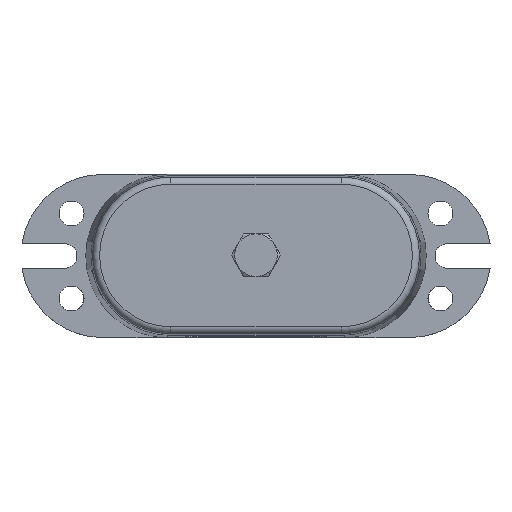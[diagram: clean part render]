
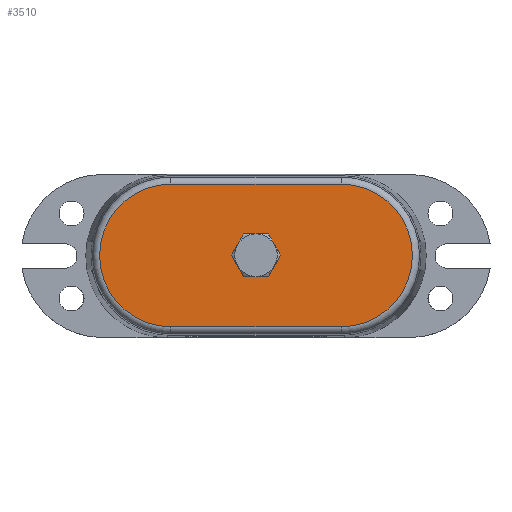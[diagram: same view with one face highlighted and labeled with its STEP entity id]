
A CAD part, top view. The second image highlights one B-rep face of the part: STEP entity #3510.
In plain terms, the highlighted planar face has unit normal (0, 0, 1).
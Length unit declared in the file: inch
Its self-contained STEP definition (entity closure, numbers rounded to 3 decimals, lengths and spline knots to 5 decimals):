
#93=LINE('',#6836,#312);
#94=LINE('',#6839,#313);
#312=VECTOR('',#4172,3.);
#313=VECTOR('',#4175,3.);
#706=FACE_BOUND('',#1004,.T.);
#784=FACE_OUTER_BOUND('',#1003,.T.);
#1003=EDGE_LOOP('',(#2310,#2311,#2312,#2313));
#1004=EDGE_LOOP('',(#2314,#2315,#2316,#2317,#2318,#2319));
#1254=CIRCLE('',#3735,0.375);
#1255=CIRCLE('',#3737,0.375);
#1256=CIRCLE('',#3739,0.375);
#1257=CIRCLE('',#3741,0.375);
#1258=CIRCLE('',#3743,0.375);
#1259=CIRCLE('',#3745,0.375);
#1260=CIRCLE('',#3753,1.25757);
#1261=CIRCLE('',#3754,1.25757);
#1408=VERTEX_POINT('',#6761);
#1409=VERTEX_POINT('',#6765);
#1410=VERTEX_POINT('',#6771);
#1413=VERTEX_POINT('',#6782);
#1415=VERTEX_POINT('',#6792);
#1416=VERTEX_POINT('',#6801);
#1419=VERTEX_POINT('',#6832);
#1420=VERTEX_POINT('',#6833);
#1421=VERTEX_POINT('',#6835);
#1422=VERTEX_POINT('',#6837);
#1747=EDGE_CURVE('',#1408,#1409,#1254,.T.);
#1749=EDGE_CURVE('',#1409,#1410,#1255,.T.);
#1753=EDGE_CURVE('',#1413,#1408,#1256,.T.);
#1756=EDGE_CURVE('',#1415,#1413,#1257,.T.);
#1758=EDGE_CURVE('',#1410,#1416,#1258,.T.);
#1761=EDGE_CURVE('',#1416,#1415,#1259,.T.);
#1769=EDGE_CURVE('',#1419,#1420,#1260,.T.);
#1770=EDGE_CURVE('',#1421,#1419,#93,.T.);
#1771=EDGE_CURVE('',#1422,#1421,#1261,.T.);
#1772=EDGE_CURVE('',#1420,#1422,#94,.T.);
#2310=ORIENTED_EDGE('',*,*,#1769,.F.);
#2311=ORIENTED_EDGE('',*,*,#1770,.F.);
#2312=ORIENTED_EDGE('',*,*,#1771,.F.);
#2313=ORIENTED_EDGE('',*,*,#1772,.F.);
#2314=ORIENTED_EDGE('',*,*,#1747,.T.);
#2315=ORIENTED_EDGE('',*,*,#1749,.T.);
#2316=ORIENTED_EDGE('',*,*,#1758,.T.);
#2317=ORIENTED_EDGE('',*,*,#1761,.T.);
#2318=ORIENTED_EDGE('',*,*,#1756,.T.);
#2319=ORIENTED_EDGE('',*,*,#1753,.T.);
#3179=PLANE('',#3752);
#3510=ADVANCED_FACE('',(#784,#706),#3179,.T.);
#3735=AXIS2_PLACEMENT_3D('',#6769,#4128,#4129);
#3737=AXIS2_PLACEMENT_3D('',#6776,#4132,#4133);
#3739=AXIS2_PLACEMENT_3D('',#6789,#4136,#4137);
#3741=AXIS2_PLACEMENT_3D('',#6799,#4140,#4141);
#3743=AXIS2_PLACEMENT_3D('',#6806,#4144,#4145);
#3745=AXIS2_PLACEMENT_3D('',#6815,#4148,#4149);
#3752=AXIS2_PLACEMENT_3D('',#6831,#4168,#4169);
#3753=AXIS2_PLACEMENT_3D('',#6834,#4170,#4171);
#3754=AXIS2_PLACEMENT_3D('',#6838,#4173,#4174);
#4128=DIRECTION('center_axis',(0.,0.,
-1.));
#4129=DIRECTION('ref_axis',(-1.,0.,0.));
#4132=DIRECTION('center_axis',(0.,0.,
-1.));
#4133=DIRECTION('ref_axis',(-1.,0.,0.));
#4136=DIRECTION('center_axis',(0.,0.,
-1.));
#4137=DIRECTION('ref_axis',(-1.,0.,0.));
#4140=DIRECTION('center_axis',(0.,0.,
-1.));
#4141=DIRECTION('ref_axis',(-1.,0.,0.));
#4144=DIRECTION('center_axis',(0.,0.,
-1.));
#4145=DIRECTION('ref_axis',(-1.,0.,0.));
#4148=DIRECTION('center_axis',(0.,0.,
-1.));
#4149=DIRECTION('ref_axis',(-1.,0.,0.));
#4168=DIRECTION('center_axis',(0.,0.,
1.));
#4169=DIRECTION('ref_axis',(1.,0.,0.));
#4170=DIRECTION('center_axis',(0.,0.,
-1.));
#4171=DIRECTION('ref_axis',(-1.,0.,0.));
#4172=DIRECTION('',(-1.,0.,0.));
#4173=DIRECTION('center_axis',(0.,0.,
-1.));
#4174=DIRECTION('ref_axis',(1.,0.,0.));
#4175=DIRECTION('',(1.,0.,0.));
#6761=CARTESIAN_POINT('',(0.32476,0.1875,5.625));
#6765=CARTESIAN_POINT('',(0.32476,-0.1875,5.625));
#6769=CARTESIAN_POINT('Origin',(0.,0.,
5.625));
#6771=CARTESIAN_POINT('',(0.,-0.375,5.625));
#6776=CARTESIAN_POINT('Origin',(0.,0.,
5.625));
#6782=CARTESIAN_POINT('',(0.,0.375,5.625));
#6789=CARTESIAN_POINT('Origin',(0.,0.,
5.625));
#6792=CARTESIAN_POINT('',(-0.32476,0.1875,5.625));
#6799=CARTESIAN_POINT('Origin',(0.,0.,
5.625));
#6801=CARTESIAN_POINT('',(-0.32476,-0.1875,5.625));
#6806=CARTESIAN_POINT('Origin',(0.,0.,
5.625));
#6815=CARTESIAN_POINT('Origin',(0.,0.,
5.625));
#6831=CARTESIAN_POINT('Origin',(0.,0.,
5.625));
#6832=CARTESIAN_POINT('',(-1.5,-1.25757,5.625));
#6833=CARTESIAN_POINT('',(-1.5,1.25757,5.625));
#6834=CARTESIAN_POINT('Origin',(-1.5,0.,5.625));
#6835=CARTESIAN_POINT('',(1.5,-1.25757,5.625));
#6836=CARTESIAN_POINT('',(-0.75,-1.25757,5.625));
#6837=CARTESIAN_POINT('',(1.5,1.25757,5.625));
#6838=CARTESIAN_POINT('Origin',(1.5,0.,5.625));
#6839=CARTESIAN_POINT('',(0.75,1.25757,5.625));
